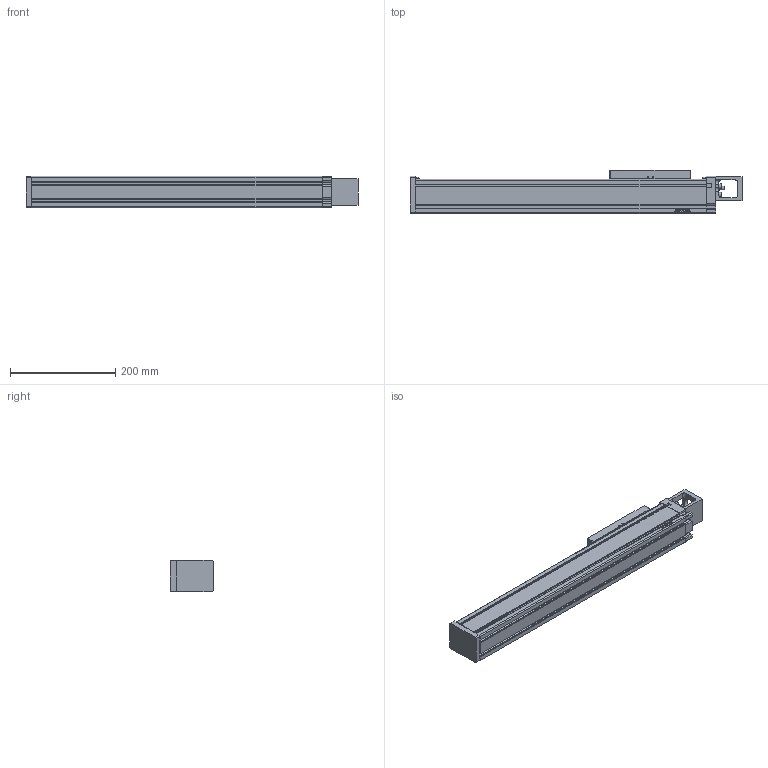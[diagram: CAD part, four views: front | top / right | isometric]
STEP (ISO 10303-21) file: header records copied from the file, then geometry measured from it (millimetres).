
FILE_DESCRIPTION(/* description */ (''),/* implementation_level */ '2;1');
FILE_NAME(/* name */ 'D:\混合母檔20191031\混和母檔\混和母檔\bin\Debug\Download\3D\KU60-10C-350AF0\KU60-10C-350AF0.stp',/* time_stamp */ '2019-11-04T16:37:29+08:00',/* author */ ('user'),/* organization */ (''),/* preprocessor_version */ 'ST-DEVELOPER v16.13',/* originating_system */ 'Autodesk Inventor 2018',/* authorisation */ '');
FILE_SCHEMA (('AUTOMOTIVE_DESIGN { 1 0 10303 214 3 1 1 }'));
Length unit declared in the file: millimetre
Products named in the file (3): KU60-10C-350AF0; KU060-F0-BP; KU60-SL
Assembly tree (2 placements, depth 2):
  KU60-10C-350AF0
    KU060-F0-BP
    KU60-SL
Bounding box: 631 x 82 x 60 mm (x, y, z)
Volume: 2321242.7 mm3; surface area: 248692.4 mm2
Topology: 2 solids, 14 shells, 756 faces, 2087 edges, 1370 vertices
Faces by surface type: plane 448, bspline 140, cylinder 133, cone 23, torus 12
Full cylindrical faces by diameter (mm): 2.459 x8, 3 x4, 3.242 x16, 3.5 x4, 4.5 x4, 5 x4, 5.5 x4, 5.7 x4, 6 x1, 8 x1, 8.5 x4, 30 x1, 35 x1
Entity records: 24568 total; most frequent: CARTESIAN_POINT 6539, ORIENTED_EDGE 3902, DIRECTION 3204, EDGE_CURVE 1951, VERTEX_POINT 1321, LINE 1288, VECTOR 1288, AXIS2_PLACEMENT_3D 958
